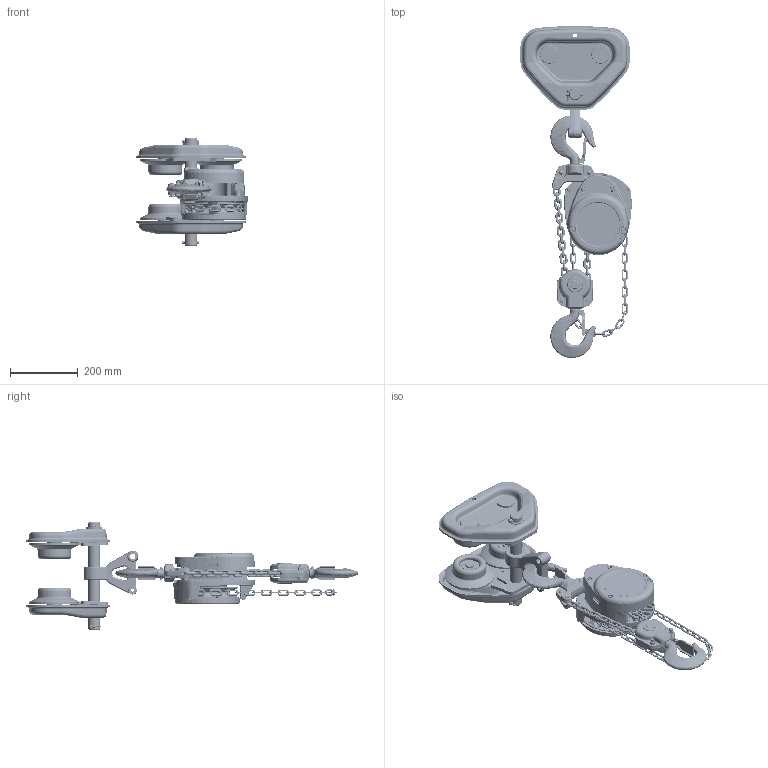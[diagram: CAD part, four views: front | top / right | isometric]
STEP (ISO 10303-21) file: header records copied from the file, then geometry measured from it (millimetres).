
FILE_DESCRIPTION (( 'STEP AP214' ), '1' );
FILE_NAME ('CF030 with PTF2030.STEP', '2026-08-18T12:57:36', ( '' ), ( '' ), 'SwSTEP 2.0', 'SolidWorks 2026', '' );
FILE_SCHEMA (( 'AUTOMOTIVE_DESIGN' ));
Length unit declared in the file: inch
Products named in the file (45): 80350; T6GA0309102; T7G115030; 9012709_Rectangular section spring washer BS 4464 - 16 (Type B); 9098506_9098506; C3BA030-90011; T7G117030; T6GA0309112; C1FA015-91012; C2FA030-901X1_C2FA030-90111; C1FA015-91052; HCCF005; 9009432_9009432; LCCF015NPW_Lower Hook; 9091285_B18.3.1M - 8 x 1.25 x 90 Hex SHCS -- 28CHX; CF030_For Manual Trolley; MS104030; T6G5112030; CF071030; M3021A030; C1FA015-91021; HCCF005 FOR CF030; CF030 with PTF2030; T6GA0309103; C2FA030-901X1_C2FA030-90121; 9091296_9091296; C2FA015-91711; Load Chain Link ER2W010H; CF053030; 9091283_B18.3.1M - 8 x 1.25 x 75 Hex SHCS -- 65CHX; M2049010; T6G5102030; MS164020; M3041030; Socket Head Cap Screw_AM_9091271; J1GR020-0630; CF001030; T6GA0309113; 9047125_B27.7M - 3AM1-23; C4FA015-91151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
Assembly tree (132 placements, depth 4):
  CF030 with PTF2030
    PTF2030_5.5" FLANGE
      T6G5112030  x2
        T6GA0309112
        T6GA0309103
        T6GA0309113
      T6G5102030  x4
        T6GA0309102
        J1GR020-0630
      MS104030  x4
      9047125_B27.7M - 3AM1-23  x4
      T7G115030
      T7G117030
      MS164020  x2
      9009432_9009432  x2
    CF030_For Manual Trolley
      C1FA015-91012
      C1FA015-91021
      C1FA015-91052
      C2FA015-91711
      C4FA015-91151
      M3021A030
        C3BA030-90312  x2
        C3BA030-90011
        CF071030
        9091296_9091296  x2
        9098506_9098506  x2
        CF053030
      CF001030
        C3BA030-90011
        C2FA030-901X1_C2FA030-90111
        C2FA030-901X1_C2FA030-90121
        CF071030
        M3041030
        M2049010
        9009411_9009411
      80350
      9098506_9098506  x4
      9091283_B18.3.1M - 8 x 1.25 x 75 Hex SHCS -- 65CHX  x2
      9091285_B18.3.1M - 8 x 1.25 x 90 Hex SHCS -- 28CHX  x2
      Socket Head Cap Screw_AM_9091271
      9012709_Rectangular section spring washer BS 4464 - 16 (Type B)  x3
      CF187005  x3
      HCCF005 FOR CF030
        HCCF005  x44
      LCCF015NPW_Lower Hook  x2
        Load Chain Link ER2W010H
      T7GC004030
Bounding box: 329.99 x 983.53 x 320 mm (x, y, z)
Volume: 5146575.3 mm3; surface area: 1839597.2 mm2
Topology: 143 solids, 159 shells, 9041 faces, 22311 edges, 13385 vertices
Faces by surface type: plane 2390, torus 2170, cylinder 1853, bspline 1334, cone 1229, sphere 65
Entity records: 274633 total; most frequent: CARTESIAN_POINT 137551, ORIENTED_EDGE 29334, DIRECTION 27731, EDGE_CURVE 14669, AXIS2_PLACEMENT_3D 11876, VERTEX_POINT 8776, CIRCLE 6833, EDGE_LOOP 6323
